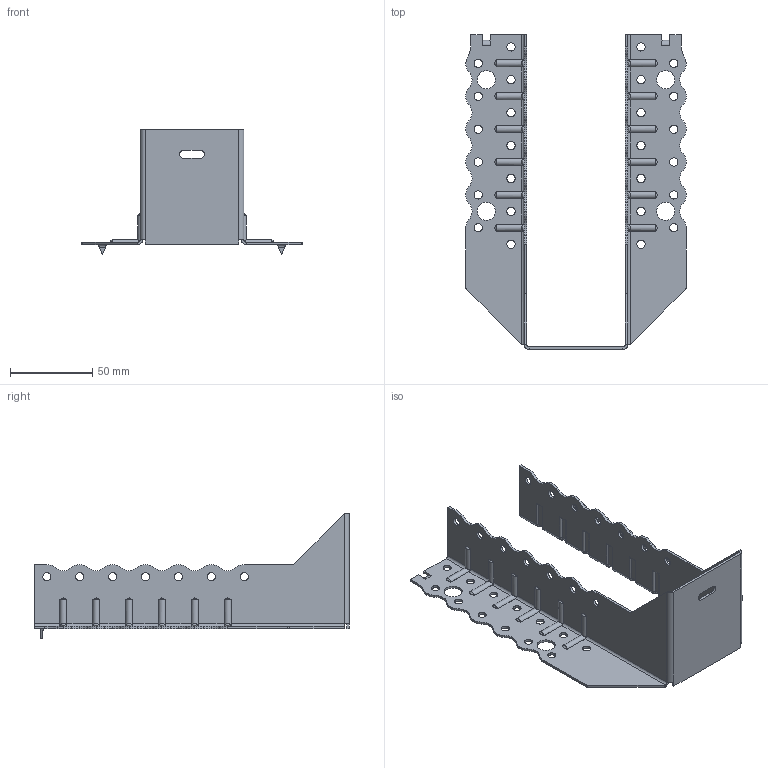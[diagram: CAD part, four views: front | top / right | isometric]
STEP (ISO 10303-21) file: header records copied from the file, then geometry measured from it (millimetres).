
FILE_DESCRIPTION (( 'STEP AP203' ), '1' );
FILE_NAME ('30624TOP.STEP', '2021-04-07T12:18:45', ( '' ), ( '' ), 'SwSTEP 2.0', 'SolidWorks 2013', '' );
FILE_SCHEMA (( 'CONFIG_CONTROL_DESIGN' ));
Length unit declared in the file: millimetre
Products named in the file (1): 30624TOP
Bounding box: 134 x 191.5 x 76 mm (x, y, z)
Volume: 44900.9 mm3; surface area: 63792.8 mm2
Topology: 1 solids, 1 shells, 498 faces, 1348 edges, 852 vertices
Faces by surface type: cylinder 317, plane 133, torus 24, bspline 24
Entity records: 18595 total; most frequent: CARTESIAN_POINT 5929, ORIENTED_EDGE 2696, DIRECTION 2596, EDGE_CURVE 1348, AXIS2_PLACEMENT_3D 949, VERTEX_POINT 852, VECTOR 698, LINE 698
